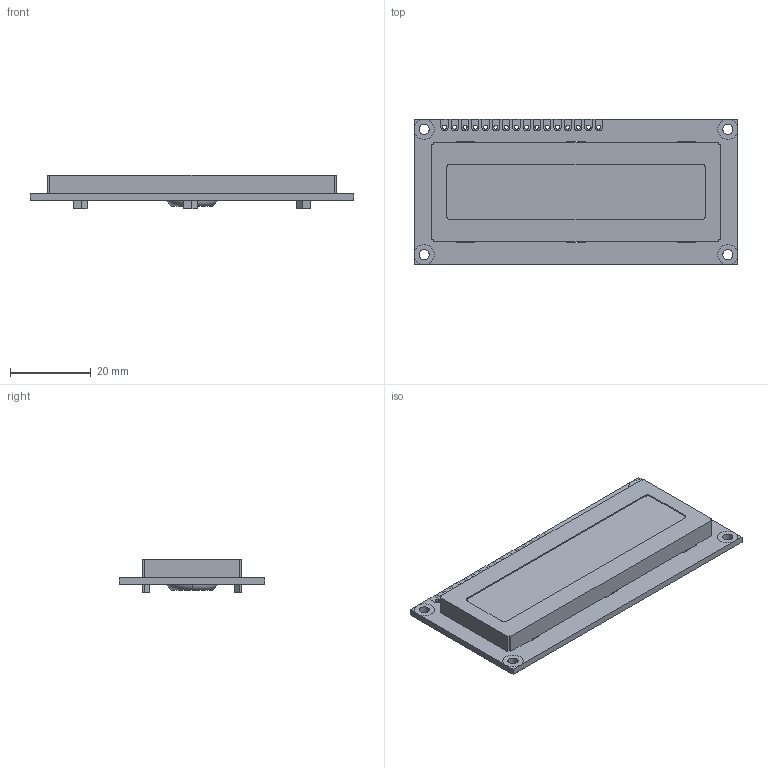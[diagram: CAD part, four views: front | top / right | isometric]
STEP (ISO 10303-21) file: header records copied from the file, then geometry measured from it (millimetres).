
FILE_DESCRIPTION (( 'STEP AP214' ), '1' );
FILE_NAME ('NHD-0116AZ-RN.STEP', '2018-03-13T21:11:33', ( '' ), ( '' ), 'SwSTEP 2.0', 'SolidWorks 2018', '' );
FILE_SCHEMA (( 'AUTOMOTIVE_DESIGN' ));
Length unit declared in the file: millimetre
Products named in the file (1): NHD-0116AZ-RN
Bounding box: 80 x 36 x 8.3 mm (x, y, z)
Volume: 12463 mm3; surface area: 7364.1 mm2
Topology: 1 solids, 1 shells, 339 faces, 966 edges, 626 vertices
Faces by surface type: plane 221, cylinder 116, torus 2
Entity records: 14841 total; most frequent: CARTESIAN_POINT 1932, ORIENTED_EDGE 1932, DIRECTION 1892, EDGE_CURVE 966, LINE 720, VECTOR 720, VERTEX_POINT 626, AXIS2_PLACEMENT_3D 586
